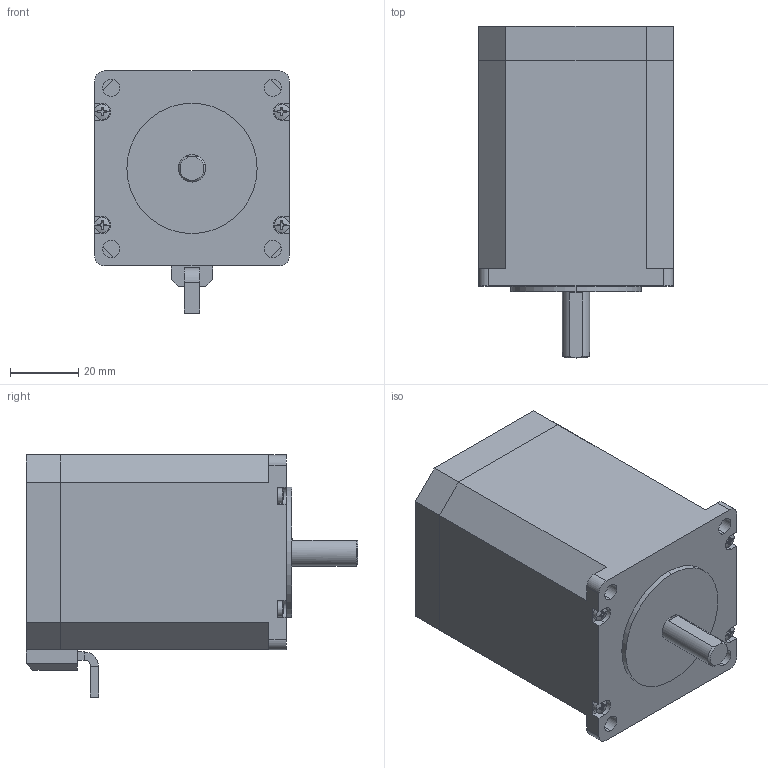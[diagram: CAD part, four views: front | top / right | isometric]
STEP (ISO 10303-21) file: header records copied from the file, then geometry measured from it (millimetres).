
FILE_DESCRIPTION (( 'STEP AP203' ), '1' );
FILE_NAME ('57BG76-40A4-002 ヶ噤8酗21晦19綠7.5﹜萇擢盄0.5m.STEP', '2024-10-13T14:17:43', ( '' ), ( '' ), 'SwSTEP 2.0', 'SolidWorks 2022', '' );
FILE_SCHEMA (( 'CONFIG_CONTROL_DESIGN' ));
Length unit declared in the file: millimetre
Products named in the file (1): 57BG76-40A4-002    ヶ噤8酗21晦19綠7.5﹜萇擢盄0.5m
Bounding box: 57.04 x 97 x 70.8 mm (x, y, z)
Volume: 241335.3 mm3; surface area: 30865 mm2
Topology: 6 solids, 6 shells, 188 faces, 481 edges, 316 vertices
Faces by surface type: plane 124, cylinder 54, sphere 8, cone 2
Entity records: 5844 total; most frequent: CARTESIAN_POINT 1174, DIRECTION 977, ORIENTED_EDGE 962, EDGE_CURVE 481, AXIS2_PLACEMENT_3D 357, VERTEX_POINT 316, LINE 263, VECTOR 263
